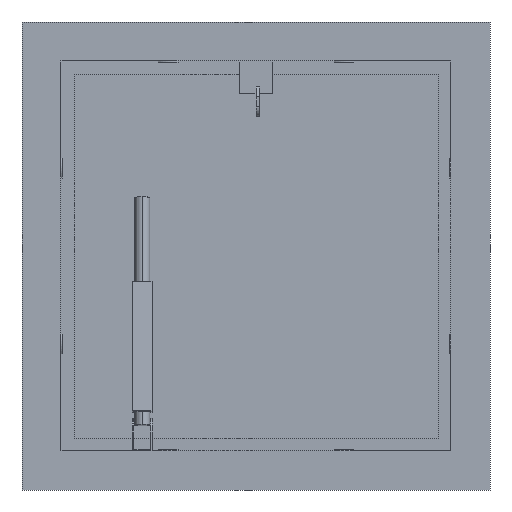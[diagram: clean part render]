
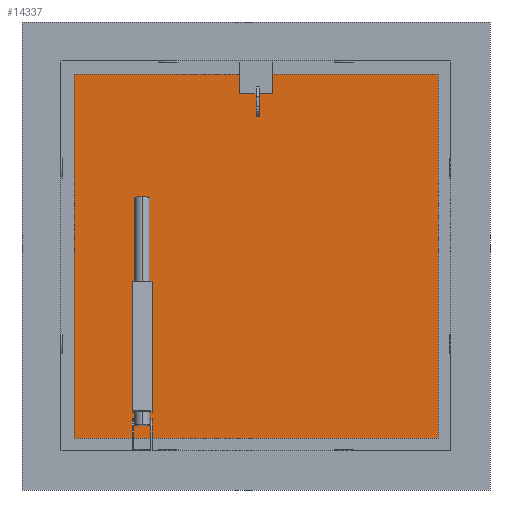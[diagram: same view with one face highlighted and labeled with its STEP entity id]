
A CAD part, front view. The second image highlights one B-rep face of the part: STEP entity #14337.
In plain terms, the highlighted planar face has unit normal (0, -1, 0).
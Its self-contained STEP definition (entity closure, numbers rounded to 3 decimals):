
#5834=DIRECTION('',(0.,0.,-1.));
#5835=VECTOR('',#5834,648.);
#5836=CARTESIAN_POINT('',(324.,75.,315.));
#5837=LINE('',#5836,#5835);
#5842=DIRECTION('',(0.,0.,-1.));
#5843=VECTOR('',#5842,30.);
#5844=CARTESIAN_POINT('',(0.,75.,245.));
#5845=LINE('',#5844,#5843);
#5846=DIRECTION('',(1.,0.,0.));
#5847=VECTOR('',#5846,5.);
#5848=CARTESIAN_POINT('',(0.,75.,215.));
#5849=LINE('',#5848,#5847);
#5850=DIRECTION('',(0.,0.,-1.));
#5851=VECTOR('',#5850,30.);
#5852=CARTESIAN_POINT('',(5.,75.,245.));
#5853=LINE('',#5852,#5851);
#5854=DIRECTION('',(1.,0.,0.));
#5855=VECTOR('',#5854,5.);
#5856=CARTESIAN_POINT('',(0.,75.,245.));
#5857=LINE('',#5856,#5855);
#5858=DIRECTION('',(-1.,0.,0.));
#5859=VECTOR('',#5858,648.);
#5860=CARTESIAN_POINT('',(324.,75.,-333.));
#5861=LINE('',#5860,#5859);
#5866=DIRECTION('',(0.,0.,1.));
#5867=VECTOR('',#5866,648.);
#5868=CARTESIAN_POINT('',(-324.,75.,-333.));
#5869=LINE('',#5868,#5867);
#5874=DIRECTION('',(1.,0.,0.));
#5875=VECTOR('',#5874,648.);
#5876=CARTESIAN_POINT('',(-324.,75.,315.));
#5877=LINE('',#5876,#5875);
#11249=CARTESIAN_POINT('',(324.,75.,315.));
#11250=CARTESIAN_POINT('',(324.,75.,-333.));
#11251=VERTEX_POINT('',#11249);
#11252=VERTEX_POINT('',#11250);
#11253=CARTESIAN_POINT('',(-324.,75.,-333.));
#11254=VERTEX_POINT('',#11253);
#11255=CARTESIAN_POINT('',(-324.,75.,315.));
#11256=VERTEX_POINT('',#11255);
#11291=CARTESIAN_POINT('',(0.,75.,245.));
#11292=CARTESIAN_POINT('',(0.,75.,215.));
#11293=VERTEX_POINT('',#11291);
#11294=VERTEX_POINT('',#11292);
#11295=CARTESIAN_POINT('',(5.,75.,245.));
#11296=CARTESIAN_POINT('',(5.,75.,215.));
#11297=VERTEX_POINT('',#11295);
#11298=VERTEX_POINT('',#11296);
#14313=CARTESIAN_POINT('',(0.,75.,0.));
#14314=DIRECTION('',(0.,1.,0.));
#14315=DIRECTION('',(0.,0.,-1.));
#14316=AXIS2_PLACEMENT_3D('',#14313,#14314,#14315);
#14317=PLANE('',#14316);
#14318=ORIENTED_EDGE('',*,*,#14303,.T.);
#14320=ORIENTED_EDGE('',*,*,#14319,.T.);
#14322=ORIENTED_EDGE('',*,*,#14321,.T.);
#14324=ORIENTED_EDGE('',*,*,#14323,.T.);
#14325=EDGE_LOOP('',(#14318,#14320,#14322,#14324));
#14326=FACE_OUTER_BOUND('',#14325,.F.);
#14328=ORIENTED_EDGE('',*,*,#14327,.T.);
#14330=ORIENTED_EDGE('',*,*,#14329,.T.);
#14332=ORIENTED_EDGE('',*,*,#14331,.F.);
#14334=ORIENTED_EDGE('',*,*,#14333,.F.);
#14335=EDGE_LOOP('',(#14328,#14330,#14332,#14334));
#14336=FACE_BOUND('',#14335,.F.);
#14303=EDGE_CURVE('',#11251,#11252,#5837,.T.);
#14319=EDGE_CURVE('',#11252,#11254,#5861,.T.);
#14321=EDGE_CURVE('',#11254,#11256,#5869,.T.);
#14323=EDGE_CURVE('',#11256,#11251,#5877,.T.);
#14327=EDGE_CURVE('',#11293,#11294,#5845,.T.);
#14329=EDGE_CURVE('',#11294,#11298,#5849,.T.);
#14331=EDGE_CURVE('',#11297,#11298,#5853,.T.);
#14333=EDGE_CURVE('',#11293,#11297,#5857,.T.);
#14337=ADVANCED_FACE('',(#14326,#14336),#14317,.F.);
